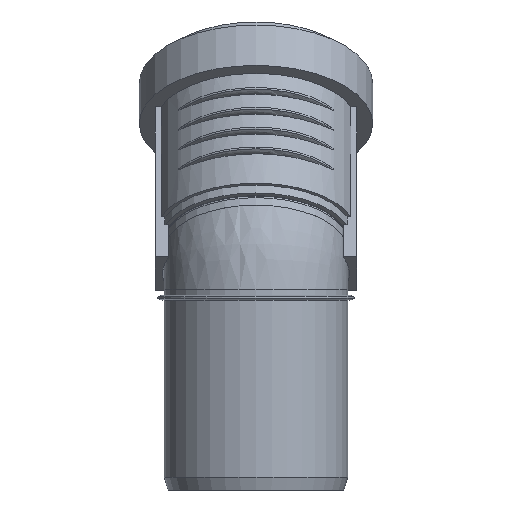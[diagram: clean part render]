
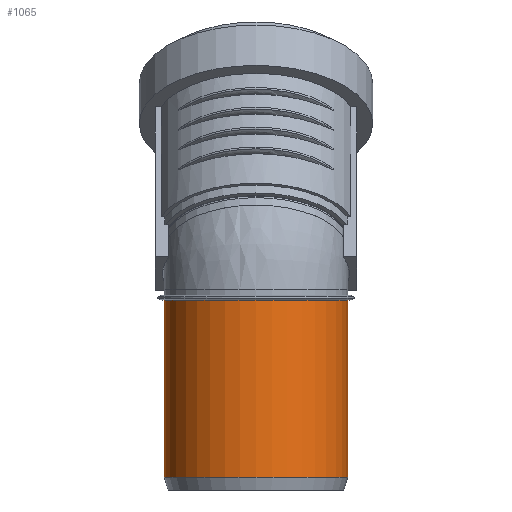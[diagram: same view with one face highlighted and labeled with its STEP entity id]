
A CAD part, left-side view. The second image highlights one B-rep face of the part: STEP entity #1065.
In plain terms, the highlighted cylindrical face has radius 25.075 mm (diameter 50.15 mm), a full revolution.
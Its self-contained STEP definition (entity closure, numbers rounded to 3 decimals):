
#190=CYLINDRICAL_SURFACE($,#1140,25.075);
#209=FACE_BOUND($,#314,.T.);
#252=FACE_OUTER_BOUND($,#313,.T.);
#313=EDGE_LOOP($,(#716));
#314=EDGE_LOOP($,(#717));
#414=CIRCLE($,#1138,25.075);
#416=CIRCLE($,#1141,25.075);
#469=VERTEX_POINT($,#1555);
#471=VERTEX_POINT($,#1560);
#575=EDGE_CURVE($,#469,#469,#414,.T.);
#577=EDGE_CURVE($,#471,#471,#416,.T.);
#716=ORIENTED_EDGE($,*,*,#577,.T.);
#717=ORIENTED_EDGE($,*,*,#575,.F.);
#1065=ADVANCED_FACE($,(#252,#209),#190,.T.);
#1138=AXIS2_PLACEMENT_3D($,#1556,#1267,#1268);
#1140=AXIS2_PLACEMENT_3D($,#1559,#1271,#1272);
#1141=AXIS2_PLACEMENT_3D($,#1561,#1273,#1274);
#1267=DIRECTION('center_axis',(0.,0.,-1.));
#1268=DIRECTION('ref_axis',(-1.,0.,0.));
#1271=DIRECTION('center_axis',(0.,0.,1.));
#1272=DIRECTION('ref_axis',(-1.,0.,0.));
#1273=DIRECTION('center_axis',(0.,0.,-1.));
#1274=DIRECTION('ref_axis',(-1.,0.,0.));
#1555=CARTESIAN_POINT('',(25.075,0.,3.5));
#1556=CARTESIAN_POINT('Origin',(0.,0.,3.5));
#1559=CARTESIAN_POINT('Origin',(0.,0.,0.));
#1560=CARTESIAN_POINT('',(-25.075,0.,51.8));
#1561=CARTESIAN_POINT('Origin',(0.,0.,51.8));
